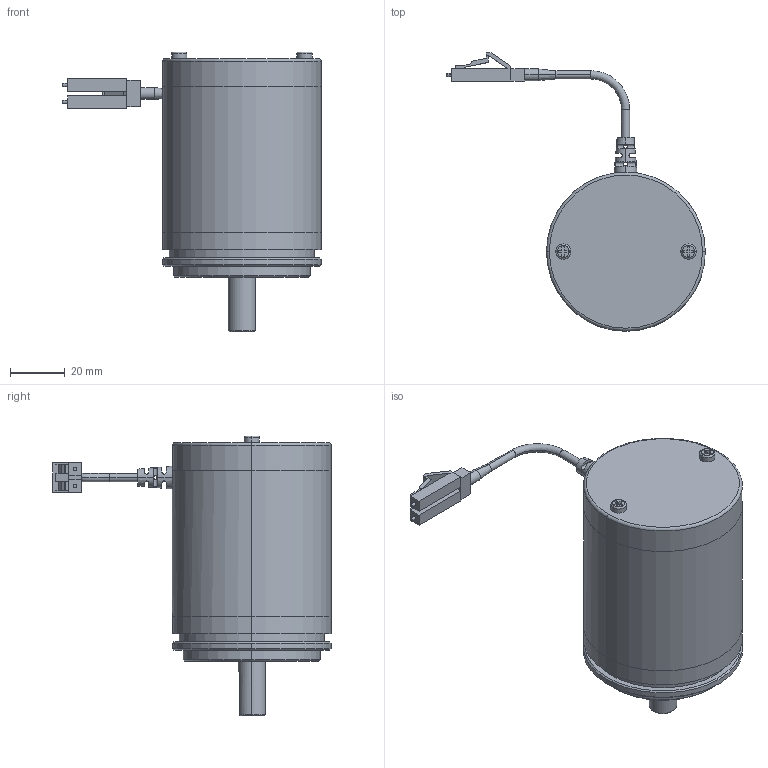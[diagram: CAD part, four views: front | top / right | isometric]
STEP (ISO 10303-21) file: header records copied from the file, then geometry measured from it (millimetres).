
FILE_DESCRIPTION (( 'STEP AP203' ), '1' );
FILE_NAME ('MR332-Y10CXX.STEP', '2013-07-29T16:53:36', ( '' ), ( '' ), 'SwSTEP 2.0', 'SolidWorks 2013', '' );
FILE_SCHEMA (( 'CONFIG_CONTROL_DESIGN' ));
Length unit declared in the file: inch
Products named in the file (1): MR332-Y10CXX
Bounding box: 94.36 x 101.59 x 102.16 mm (x, y, z)
Surface area: 25602 mm2 (no closed solid volume)
Topology: 0 solids, 13 shells, 179 faces, 489 edges, 326 vertices
Faces by surface type: plane 98, cylinder 50, cone 23, torus 8
Entity records: 6146 total; most frequent: CARTESIAN_POINT 1446, DIRECTION 993, ORIENTED_EDGE 895, EDGE_CURVE 489, AXIS2_PLACEMENT_3D 353, VERTEX_POINT 326, VECTOR 287, LINE 287
